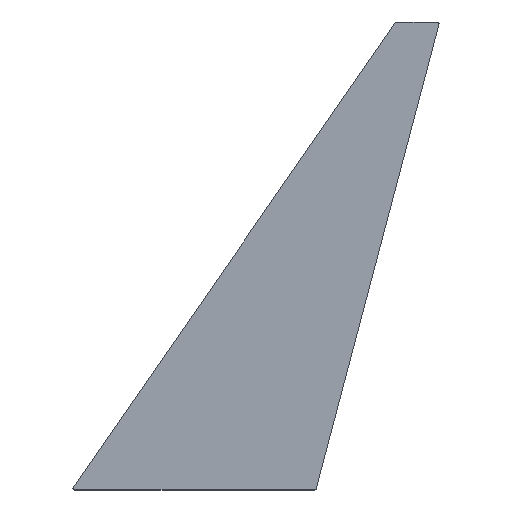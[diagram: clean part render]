
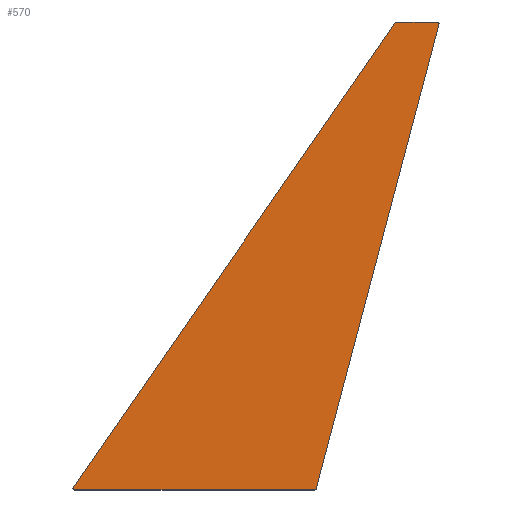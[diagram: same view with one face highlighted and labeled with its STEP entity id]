
A CAD part, top view. The second image highlights one B-rep face of the part: STEP entity #570.
In plain terms, the highlighted planar face has unit normal (0, 0, 1).
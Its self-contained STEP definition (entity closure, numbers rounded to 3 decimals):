
#280=PLANE('',#554);
#282=CIRCLE('',#539,3.);
#284=CIRCLE('',#543,3.);
#286=CIRCLE('',#547,3.);
#288=CIRCLE('',#551,3.);
#329=ORIENTED_EDGE('',*,*,#388,.T.);
#330=ORIENTED_EDGE('',*,*,#408,.F.);
#331=ORIENTED_EDGE('',*,*,#406,.F.);
#332=ORIENTED_EDGE('',*,*,#403,.T.);
#333=ORIENTED_EDGE('',*,*,#400,.F.);
#334=ORIENTED_EDGE('',*,*,#397,.T.);
#335=ORIENTED_EDGE('',*,*,#394,.T.);
#336=ORIENTED_EDGE('',*,*,#391,.T.);
#341=VECTOR('',#441,1.);
#345=VECTOR('',#453,1.);
#349=VECTOR('',#465,1.);
#352=VECTOR('',#476,1.);
#357=LINE('',#499,#341);
#361=LINE('',#511,#345);
#365=LINE('',#523,#349);
#368=LINE('',#532,#352);
#370=VERTEX_POINT('',#487);
#372=VERTEX_POINT('',#491);
#374=VERTEX_POINT('',#496);
#376=VERTEX_POINT('',#502);
#378=VERTEX_POINT('',#508);
#380=VERTEX_POINT('',#514);
#382=VERTEX_POINT('',#520);
#384=VERTEX_POINT('',#526);
#388=EDGE_CURVE('',#370,#372,#282,.T.);
#391=EDGE_CURVE('',#374,#370,#357,.T.);
#394=EDGE_CURVE('',#376,#374,#284,.T.);
#397=EDGE_CURVE('',#378,#376,#361,.T.);
#400=EDGE_CURVE('',#378,#380,#286,.T.);
#403=EDGE_CURVE('',#382,#380,#365,.T.);
#406=EDGE_CURVE('',#382,#384,#288,.T.);
#408=EDGE_CURVE('',#384,#372,#368,.T.);
#418=EDGE_LOOP('',(#329,#330,#331,#332,#333,#334,#335,#336));
#428=FACE_BOUND('',#418,.T.);
#435=DIRECTION('',(0.,0.,1.));
#436=DIRECTION('',(0.,3.,0.));
#441=DIRECTION('',(-71.963,0.,0.));
#447=DIRECTION('',(0.,0.,1.));
#448=DIRECTION('',(0.,3.,0.));
#453=DIRECTION('',(217.71,824.,0.));
#459=DIRECTION('',(0.,0.,-1.));
#460=DIRECTION('',(0.,-3.,0.));
#465=DIRECTION('',(425.519,0.,0.));
#471=DIRECTION('',(0.,0.,-1.));
#472=DIRECTION('',(0.,-3.,0.));
#476=DIRECTION('',(571.266,824.,0.));
#479=DIRECTION('',(0.,0.,1.));
#480=DIRECTION('',(0.,-1.,0.));
#487=CARTESIAN_POINT('',(5811.074,13781.36,40.));
#491=CARTESIAN_POINT('',(5808.609,13780.069,40.));
#493=CARTESIAN_POINT('',(5811.074,13778.36,40.));
#496=CARTESIAN_POINT('',(5883.037,13781.36,40.));
#499=CARTESIAN_POINT('',(5883.037,13781.36,40.));
#502=CARTESIAN_POINT('',(5885.938,13777.594,40.));
#505=CARTESIAN_POINT('',(5883.037,13778.36,40.));
#508=CARTESIAN_POINT('',(5668.228,12953.594,40.));
#511=CARTESIAN_POINT('',(5668.228,12953.594,40.));
#514=CARTESIAN_POINT('',(5665.327,12951.36,40.));
#517=CARTESIAN_POINT('',(5665.327,12954.36,40.));
#520=CARTESIAN_POINT('',(5239.808,12951.36,40.));
#523=CARTESIAN_POINT('',(5239.808,12951.36,40.));
#526=CARTESIAN_POINT('',(5237.343,12956.069,40.));
#529=CARTESIAN_POINT('',(5239.808,12954.36,40.));
#532=CARTESIAN_POINT('',(5237.343,12956.069,40.));
#534=CARTESIAN_POINT('',(0.,0.,40.));
#539=AXIS2_PLACEMENT_3D('',#493,#435,#436);
#543=AXIS2_PLACEMENT_3D('',#505,#447,#448);
#547=AXIS2_PLACEMENT_3D('',#517,#459,#460);
#551=AXIS2_PLACEMENT_3D('',#529,#471,#472);
#554=AXIS2_PLACEMENT_3D('',#534,#479,#480);
#570=ADVANCED_FACE('',(#428),#280,.T.);
